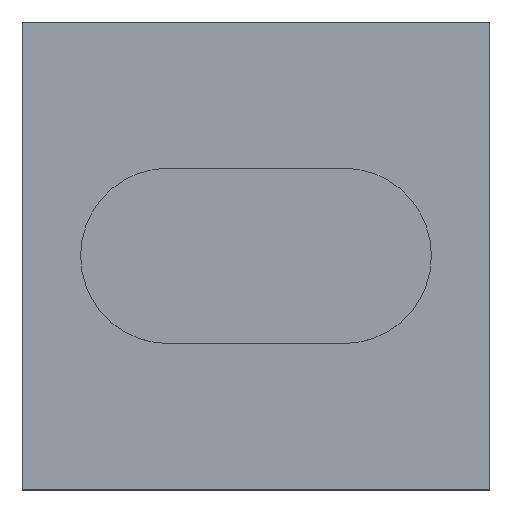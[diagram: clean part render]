
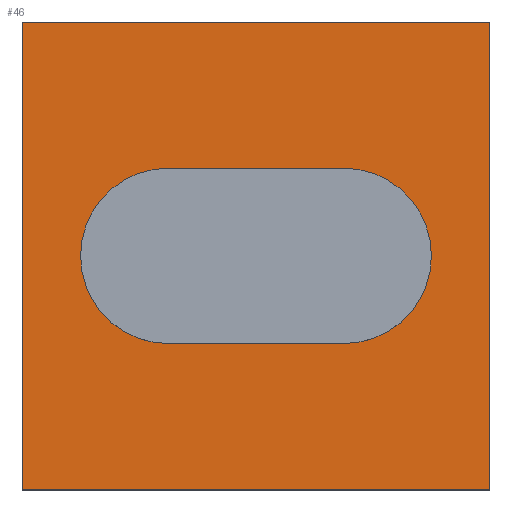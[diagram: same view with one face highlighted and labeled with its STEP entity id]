
A CAD part, top view. The second image highlights one B-rep face of the part: STEP entity #46.
In plain terms, the highlighted planar face has unit normal (0, 0, 1).
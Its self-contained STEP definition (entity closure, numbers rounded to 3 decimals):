
#46=ADVANCED_FACE('',(#70,#71),#57,.T.);
#57=PLANE('',#215);
#66=CIRCLE('',#213,15.);
#67=CIRCLE('',#214,15.);
#70=FACE_BOUND('',#72,.T.);
#71=FACE_BOUND('',#73,.T.);
#72=EDGE_LOOP('',(#84,#85,#86,#87));
#73=EDGE_LOOP('',(#88,#89,#90,#91));
#84=ORIENTED_EDGE('',*,*,#148,.T.);
#85=ORIENTED_EDGE('',*,*,#149,.T.);
#86=ORIENTED_EDGE('',*,*,#150,.T.);
#87=ORIENTED_EDGE('',*,*,#151,.T.);
#88=ORIENTED_EDGE('',*,*,#152,.T.);
#89=ORIENTED_EDGE('',*,*,#153,.T.);
#90=ORIENTED_EDGE('',*,*,#154,.T.);
#91=ORIENTED_EDGE('',*,*,#155,.T.);
#132=VERTEX_POINT('',#282);
#133=VERTEX_POINT('',#283);
#134=VERTEX_POINT('',#285);
#135=VERTEX_POINT('',#287);
#136=VERTEX_POINT('',#290);
#137=VERTEX_POINT('',#291);
#138=VERTEX_POINT('',#293);
#139=VERTEX_POINT('',#295);
#148=EDGE_CURVE('',#132,#133,#172,.T.);
#149=EDGE_CURVE('',#133,#134,#173,.T.);
#150=EDGE_CURVE('',#134,#135,#174,.T.);
#151=EDGE_CURVE('',#135,#132,#175,.T.);
#152=EDGE_CURVE('',#136,#137,#176,.T.);
#153=EDGE_CURVE('',#137,#138,#66,.T.);
#154=EDGE_CURVE('',#138,#139,#177,.T.);
#155=EDGE_CURVE('',#139,#136,#67,.T.);
#172=LINE('',#281,#192);
#173=LINE('',#284,#193);
#174=LINE('',#286,#194);
#175=LINE('',#288,#195);
#176=LINE('',#289,#196);
#177=LINE('',#294,#197);
#192=VECTOR('',#230,1.);
#193=VECTOR('',#231,1.);
#194=VECTOR('',#232,1.);
#195=VECTOR('',#233,1.);
#196=VECTOR('',#234,1.);
#197=VECTOR('',#237,1.);
#213=AXIS2_PLACEMENT_3D('',#292,#235,#236);
#214=AXIS2_PLACEMENT_3D('',#296,#238,#239);
#215=AXIS2_PLACEMENT_3D('',#297,#240,#241);
#230=DIRECTION('',(0.,-1.,0.));
#231=DIRECTION('',(1.,0.,0.));
#232=DIRECTION('',(0.,1.,0.));
#233=DIRECTION('',(-1.,0.,0.));
#234=DIRECTION('',(-1.,0.,0.));
#235=DIRECTION('',(0.,0.,-1.));
#236=DIRECTION('',(1.,0.,0.));
#237=DIRECTION('',(1.,0.,0.));
#238=DIRECTION('',(0.,0.,-1.));
#239=DIRECTION('',(1.,0.,0.));
#240=DIRECTION('',(0.,0.,1.));
#241=DIRECTION('',(1.,0.,0.));
#281=CARTESIAN_POINT('',(-40.,40.,20.));
#282=CARTESIAN_POINT('',(-40.,40.,20.));
#283=CARTESIAN_POINT('',(-40.,-40.,20.));
#284=CARTESIAN_POINT('',(-40.,-40.,20.));
#285=CARTESIAN_POINT('',(40.,-40.,20.));
#286=CARTESIAN_POINT('',(40.,-40.,20.));
#287=CARTESIAN_POINT('',(40.,40.,20.));
#288=CARTESIAN_POINT('',(40.,40.,20.));
#289=CARTESIAN_POINT('',(0.,-15.,20.));
#290=CARTESIAN_POINT('',(15.,-15.,20.));
#291=CARTESIAN_POINT('',(-15.,-15.,20.));
#292=CARTESIAN_POINT('',(-15.,0.,20.));
#293=CARTESIAN_POINT('',(-15.,15.,20.));
#294=CARTESIAN_POINT('',(0.,15.,20.));
#295=CARTESIAN_POINT('',(15.,15.,20.));
#296=CARTESIAN_POINT('',(15.,0.,20.));
#297=CARTESIAN_POINT('',(0.,0.,20.));
